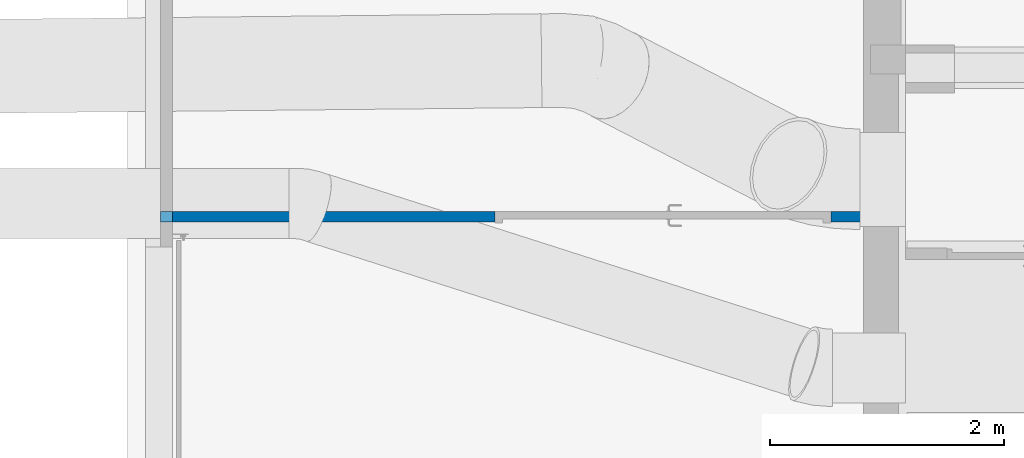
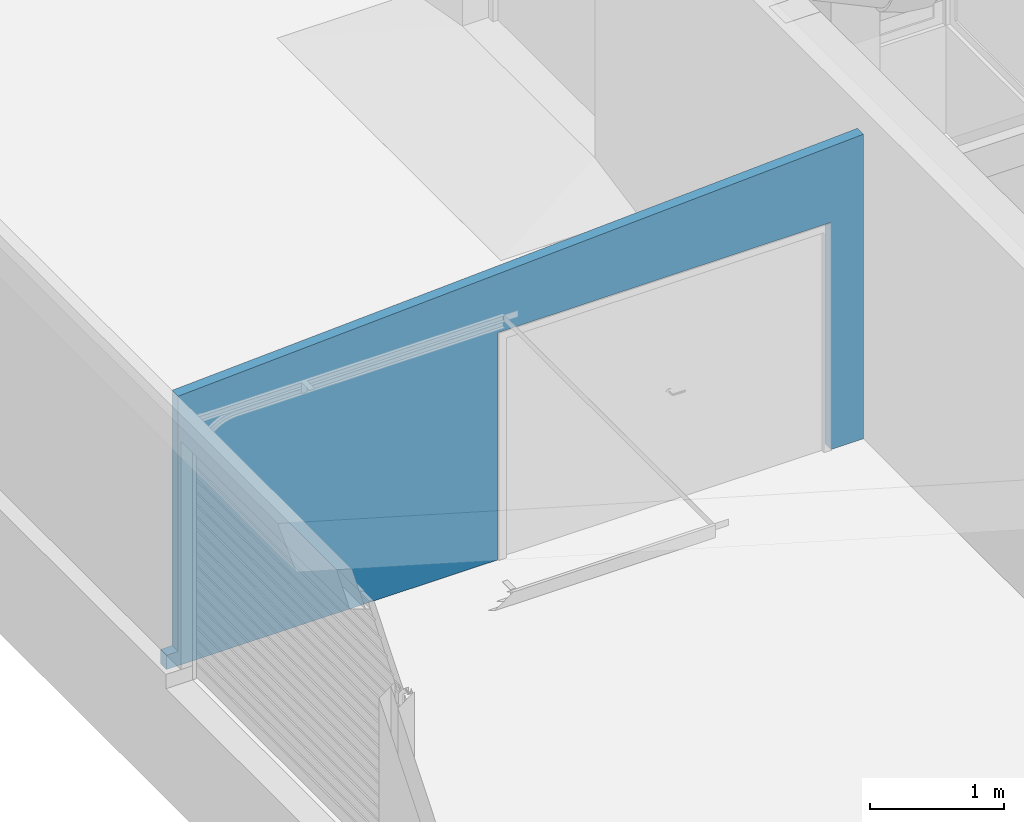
# One storey, part 120 of 301: 1 wall, 1 opening.
"""IFC2X3 building model written with IfcOpenShell, lengths in millimetres."""

from ifc_helpers import new_model, entity, si_unit, converted_unit, derived_unit, money_unit, direction, frame, origin_with_axes, place, context, subcontext, project, spatial, faceted_brep, material, type_object, element, save


model = new_model("IFC2X3")

# Units and contexts
model_context = context("Model", 3, precision=0.01, world=origin_with_axes(), true_north=direction((0.0, 1.0)))
body_context = subcontext(model_context, "Body", "Model", "MODEL_VIEW")
ifc_project = project(units=[si_unit("LENGTHUNIT", "METRE", prefix="MILLI"), si_unit("AREAUNIT", "SQUARE_METRE"), si_unit("VOLUMEUNIT", "CUBIC_METRE"), converted_unit("PLANEANGLEUNIT", "DEGREE", entity("IfcPlaneAngleMeasure", 0.0174532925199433), si_unit("PLANEANGLEUNIT", "RADIAN"), dimensions=[0, 0, 0, 0, 0, 0, 0]), money_unit("EUR"), converted_unit("TIMEUNIT", "Year", entity("IfcTimeMeasure", 31557600.0), si_unit("TIMEUNIT", "SECOND"), dimensions=[0, 0, 1, 0, 0, 0, 0]), si_unit("MASSUNIT", "GRAM", prefix="KILO"), si_unit("THERMODYNAMICTEMPERATUREUNIT", "DEGREE_CELSIUS"), si_unit("LUMINOUSINTENSITYUNIT", "LUMEN"), si_unit("ENERGYUNIT", "JOULE", prefix="MEGA"), derived_unit("THERMALCONDUCTANCEUNIT", [(si_unit("POWERUNIT", "WATT"), 1), (si_unit("LENGTHUNIT", "METRE"), -1), (si_unit("THERMODYNAMICTEMPERATUREUNIT", "KELVIN"), -1)]), derived_unit("SPECIFICHEATCAPACITYUNIT", [(si_unit("ENERGYUNIT", "JOULE"), 1), (si_unit("MASSUNIT", "GRAM", prefix="KILO"), -1), (si_unit("THERMODYNAMICTEMPERATUREUNIT", "KELVIN"), -1)]), derived_unit("MASSDENSITYUNIT", [(si_unit("MASSUNIT", "GRAM", prefix="KILO"), 1), (si_unit("VOLUMEUNIT", "CUBIC_METRE"), -1)])], contexts=[model_context])

# Site, building, storey
site_placement = place(None, frame((0.0, 0.0, 8650.0), z_axis=(0.0, 0.0, 1.0), x_axis=(1.0, 0.0, 0.0)))
site = spatial("IfcSite", under=ifc_project, at=site_placement, Name="43301:001:0844", CompositionType="ELEMENT")
building_placement = place(site_placement, origin_with_axes())
building = spatial("IfcBuilding", under=site, at=building_placement, Name="Kuressaare Ametikooli tuulikute mehaanikute õppekorpus", CompositionType="ELEMENT")
storey_placement = place(building_placement, origin_with_axes())
storey = spatial("IfcBuildingStorey", under=building, at=storey_placement, Name="1.korrus", CompositionType="ELEMENT", Elevation=0.0)

# Wall, opening
ifc_material = material(Name="GENEERILINE - KONSTRUKTRIOON")
wall_type = type_object("IfcWallType", Name="GENEERILINE - KONSTRUKTRIOON 90", PredefinedType="NOTDEFINED")
wall_placement = place(storey_placement, frame((87898.75644683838, 48860.50281581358, 0.0), z_axis=(0.0, 0.0, 1.0), x_axis=(-1.0, 0.0, 0.0)))
wall = element("IfcWall", 1, at=wall_placement, inside=storey, type_object=wall_type, material=ifc_material, context=body_context, shape_type="Brep", body=[
    faceted_brep([(5906.91765785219, 0.0, 2455.990116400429), (0.0, 0.0, 2775.893795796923), (0.0, 0.0, 0.0), (279.0025520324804, 0.0, 0.0), (279.0025520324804, 0.0, 2070.0), (3149.002552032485, 0.0, 2070.0), (3149.002552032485, 0.0, 0.0), (6006.917657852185, 0.0, 0.0), (6006.917657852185, 0.0, 129.9999999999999), (5906.91765785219, 0.0, 129.9999999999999), (0.0, 90.00000000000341, 2775.870847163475), (5906.91765785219, 90.00000000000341, 2455.967167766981), (0.0, 90.00000000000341, 0.0), (279.0025520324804, 90.00000000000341, 0.0), (279.0025520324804, 90.00000000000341, 2070.0), (3149.002552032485, 90.00000000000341, 2070.0), (3149.002552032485, 90.00000000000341, 0.0), (6006.917657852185, 90.00000000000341, 0.0), (6006.917657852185, 90.00000000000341, 129.9999999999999), (5906.91765785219, 90.00000000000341, 129.9999999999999)], [[[0, 1, 2, 3, 4, 5, 6, 7, 8, 9]], [[10, 1, 0, 11]], [[1, 10, 12, 2]], [[12, 13, 3, 2]], [[14, 4, 3, 13]], [[15, 5, 4, 14]], [[16, 6, 5, 15]], [[7, 6, 16, 17]], [[17, 18, 8, 7]], [[19, 9, 8, 18]], [[11, 0, 9, 19]], [[10, 11, 19, 18, 17, 16, 15, 14, 13, 12]]]),
])
opening_placement = place(wall_placement, frame((1714.002552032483, 0.0, 0.0), z_axis=(0.0, 0.0, 1.0), x_axis=(1.0, 0.0, 0.0)))
element("IfcOpeningElement", 2, at=opening_placement, cuts=wall, Name="SU-XX", context=body_context, shape_type="Brep", body=[
    faceted_brep([(1435.000000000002, 91.00000000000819, 2070.0), (1435.000000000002, 91.00000000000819, 0.0), (-1435.000000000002, 91.00000000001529, 0.0), (-1435.000000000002, 91.00000000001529, 2070.0), (1435.000000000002, -1.000000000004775, 2070.0), (1435.000000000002, -1.000000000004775, 0.0), (-1435.000000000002, -0.9999999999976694, 0.0), (-1435.000000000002, -0.9999999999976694, 2070.0)], [[[0, 1, 2, 3]], [[4, 5, 1, 0]], [[5, 6, 2, 1]], [[6, 7, 3, 2]], [[7, 4, 0, 3]], [[6, 5, 4, 7]]]),
])

save(model, "model.ifc")
